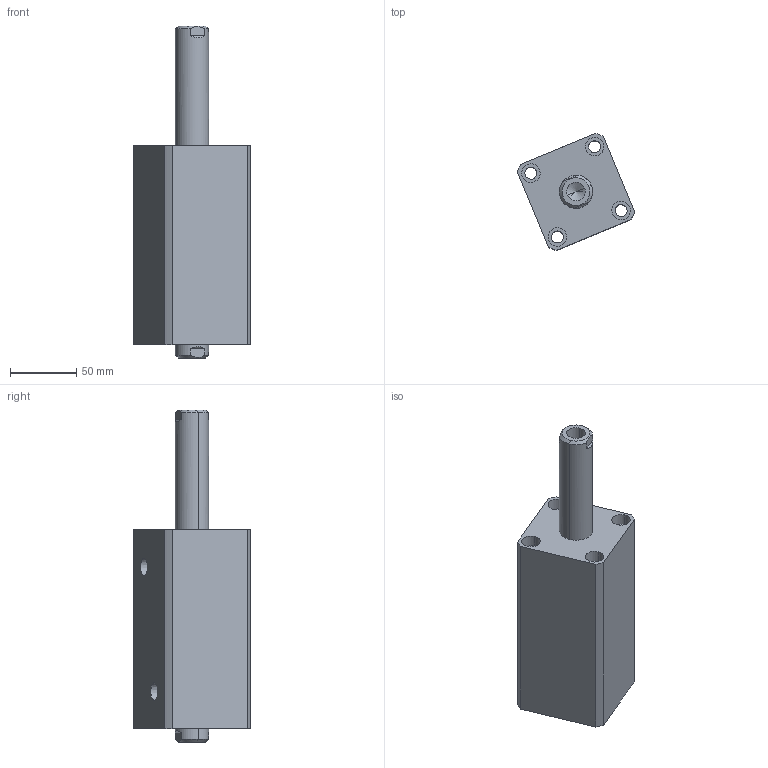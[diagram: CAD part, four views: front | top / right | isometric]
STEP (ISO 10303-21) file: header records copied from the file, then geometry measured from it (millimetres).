
FILE_DESCRIPTION (( 'STEP AP214' ), '1' );
FILE_NAME ('chtb-sw40x80n_asm.STEP', '2018-06-08T12:09:52', ( 'Windows' ), ( 'Microsoft' ), 'SwSTEP 2.0', 'SolidWorks 2015', '' );
FILE_SCHEMA (( 'AUTOMOTIVE_DESIGN' ));
Length unit declared in the file: millimetre
Products named in the file (4): CHTB-SW40X80NHSG; CHTB-SW40X80NBT; CHTB-SD40QG; chtb-sw40x80n_asm
Assembly tree (3 placements, depth 2):
  chtb-sw40x80n_asm
    CHTB-SD40QG
    CHTB-SW40X80NBT
    CHTB-SW40X80NHSG
Bounding box: 88.11 x 88.11 x 250 mm (x, y, z)
Volume: 659881.7 mm3; surface area: 121292 mm2
Topology: 3 solids, 3 shells, 167 faces, 429 edges, 282 vertices
Faces by surface type: cylinder 84, plane 40, cone 17, bspline 14, torus 12
Entity records: 10325 total; most frequent: CARTESIAN_POINT 6131, ORIENTED_EDGE 838, DIRECTION 822, EDGE_CURVE 419, AXIS2_PLACEMENT_3D 348, VERTEX_POINT 282, EDGE_LOOP 207, CIRCLE 189
